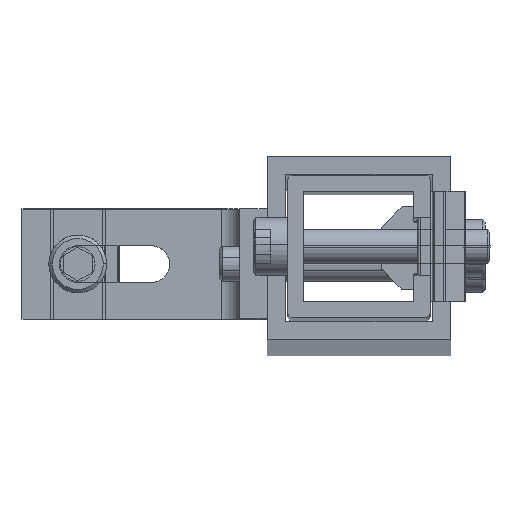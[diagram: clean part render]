
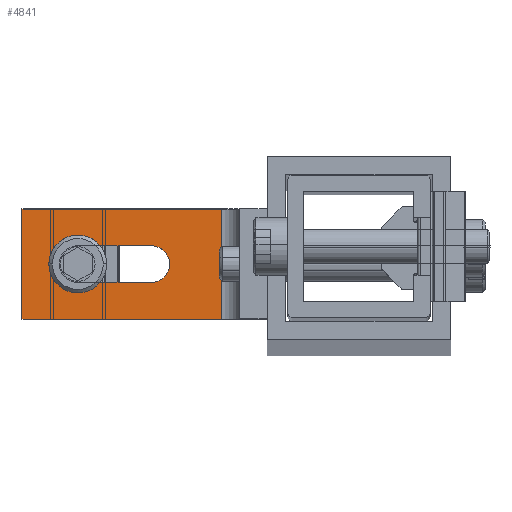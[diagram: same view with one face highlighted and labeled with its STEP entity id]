
A CAD part, top view. The second image highlights one B-rep face of the part: STEP entity #4841.
In plain terms, the highlighted planar face has unit normal (0, 0, 1) as drawn and (-1, 0, 0) by its records, which use the part's own axes.
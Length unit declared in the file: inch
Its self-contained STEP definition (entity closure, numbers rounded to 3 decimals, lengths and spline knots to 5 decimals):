
#4522=DIRECTION('',(0.,1.,0.));
#4523=VECTOR('',#4522,1.3575);
#4524=CARTESIAN_POINT('',(-0.1875,0.3125,0.375));
#4525=LINE('',#4524,#4523);
#4526=DIRECTION('',(0.,1.,0.));
#4527=VECTOR('',#4526,1.3575);
#4528=CARTESIAN_POINT('',(-0.1875,0.3125,-0.375));
#4529=LINE('',#4528,#4527);
#4530=CARTESIAN_POINT('',(-0.1875,1.29,0.));
#4531=DIRECTION('',(-1.,0.,0.));
#4532=DIRECTION('',(0.,0.,1.));
#4533=AXIS2_PLACEMENT_3D('',#4530,#4531,#4532);
#4535=CARTESIAN_POINT('',(-0.1875,0.79,0.));
#4536=DIRECTION('',(-1.,0.,0.));
#4537=DIRECTION('',(0.,0.,-1.));
#4538=AXIS2_PLACEMENT_3D('',#4535,#4536,#4537);
#4544=DIRECTION('',(0.,0.,1.));
#4545=VECTOR('',#4544,0.75);
#4546=CARTESIAN_POINT('',(-0.1875,0.3125,-0.375));
#4547=LINE('',#4546,#4545);
#4586=DIRECTION('',(0.,0.,-1.));
#4587=VECTOR('',#4586,0.75);
#4588=CARTESIAN_POINT('',(-0.1875,1.67,0.375));
#4589=LINE('',#4588,#4587);
#4590=DIRECTION('',(0.,-1.,0.));
#4591=VECTOR('',#4590,0.5);
#4592=CARTESIAN_POINT('',(-0.1875,1.29,0.125));
#4593=LINE('',#4592,#4591);
#4602=DIRECTION('',(0.,1.,0.));
#4603=VECTOR('',#4602,0.5);
#4604=CARTESIAN_POINT('',(-0.1875,0.79,-0.125));
#4605=LINE('',#4604,#4603);
#4624=CARTESIAN_POINT('',(-0.1875,0.3125,0.375));
#4625=VERTEX_POINT('',#4624);
#4640=CARTESIAN_POINT('',(-0.1875,0.3125,-0.375));
#4641=VERTEX_POINT('',#4640);
#4644=CARTESIAN_POINT('',(-0.1875,1.67,-0.375));
#4645=VERTEX_POINT('',#4644);
#4656=CARTESIAN_POINT('',(-0.1875,1.67,0.375));
#4657=VERTEX_POINT('',#4656);
#4658=CARTESIAN_POINT('',(-0.1875,1.29,0.125));
#4659=CARTESIAN_POINT('',(-0.1875,0.79,0.125));
#4660=VERTEX_POINT('',#4658);
#4661=VERTEX_POINT('',#4659);
#4662=CARTESIAN_POINT('',(-0.1875,1.29,-0.125));
#4663=VERTEX_POINT('',#4662);
#4664=CARTESIAN_POINT('',(-0.1875,0.79,-0.125));
#4665=VERTEX_POINT('',#4664);
#4818=CARTESIAN_POINT('',(-0.1875,0.3125,0.375));
#4819=DIRECTION('',(1.,0.,0.));
#4820=DIRECTION('',(0.,1.,0.));
#4821=AXIS2_PLACEMENT_3D('',#4818,#4819,#4820);
#4822=PLANE('',#4821);
#4823=ORIENTED_EDGE('',*,*,#4811,.F.);
#4825=ORIENTED_EDGE('',*,*,#4824,.F.);
#4826=ORIENTED_EDGE('',*,*,#4774,.T.);
#4828=ORIENTED_EDGE('',*,*,#4827,.F.);
#4829=EDGE_LOOP('',(#4823,#4825,#4826,#4828));
#4830=FACE_OUTER_BOUND('',#4829,.F.);
#4832=ORIENTED_EDGE('',*,*,#4831,.F.);
#4834=ORIENTED_EDGE('',*,*,#4833,.T.);
#4836=ORIENTED_EDGE('',*,*,#4835,.F.);
#4838=ORIENTED_EDGE('',*,*,#4837,.T.);
#4839=EDGE_LOOP('',(#4832,#4834,#4836,#4838));
#4840=FACE_BOUND('',#4839,.F.);
#4534=CIRCLE('',#4533,0.125);
#4539=CIRCLE('',#4538,0.125);
#4774=EDGE_CURVE('',#4641,#4645,#4529,.T.);
#4811=EDGE_CURVE('',#4625,#4657,#4525,.T.);
#4824=EDGE_CURVE('',#4641,#4625,#4547,.T.);
#4827=EDGE_CURVE('',#4657,#4645,#4589,.T.);
#4831=EDGE_CURVE('',#4660,#4661,#4593,.T.);
#4833=EDGE_CURVE('',#4660,#4663,#4534,.T.);
#4835=EDGE_CURVE('',#4665,#4663,#4605,.T.);
#4837=EDGE_CURVE('',#4665,#4661,#4539,.T.);
#4841=ADVANCED_FACE('',(#4830,#4840),#4822,.F.);
